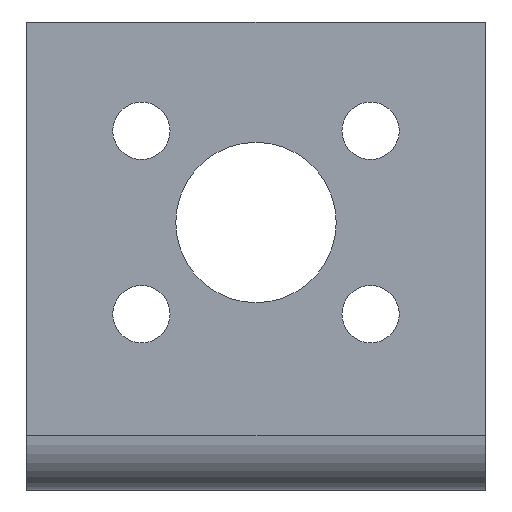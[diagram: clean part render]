
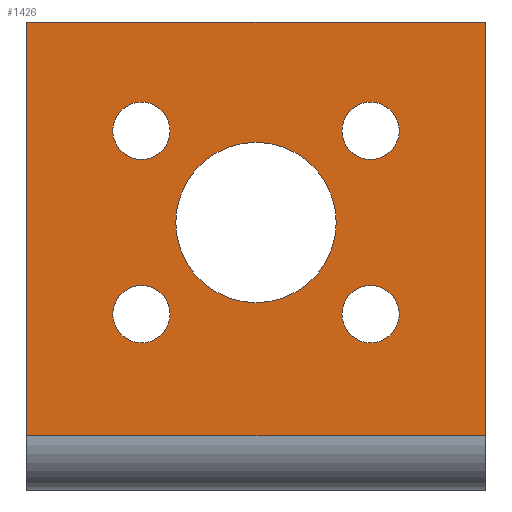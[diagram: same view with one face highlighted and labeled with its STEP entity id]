
A CAD part, front view. The second image highlights one B-rep face of the part: STEP entity #1426.
In plain terms, the highlighted planar face has unit normal (0, -1, 0).
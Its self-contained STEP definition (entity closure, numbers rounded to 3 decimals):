
#19 = ORIENTED_EDGE ( 'NONE', *, *, #1423, .T. ) ;
#25 = VECTOR ( 'NONE', #2276, 1000. ) ;
#33 = DIRECTION ( 'NONE',  ( 0., 1., 0. ) ) ;
#91 = CARTESIAN_POINT ( 'NONE',  ( 20., 33.156, 19.344 ) ) ;
#101 = EDGE_LOOP ( 'NONE', ( #1304, #1640 ) ) ;
#107 = ORIENTED_EDGE ( 'NONE', *, *, #896, .T. ) ;
#153 = DIRECTION ( 'NONE',  ( -1., 0., 0. ) ) ;
#173 = ORIENTED_EDGE ( 'NONE', *, *, #816, .T. ) ;
#190 = EDGE_LOOP ( 'NONE', ( #107, #1419 ) ) ;
#212 = LINE ( 'NONE', #1225, #843 ) ;
#266 = CARTESIAN_POINT ( 'NONE',  ( 20., 33.156, 19.344 ) ) ;
#276 = DIRECTION ( 'NONE',  ( 1., 0., 0. ) ) ;
#364 = CARTESIAN_POINT ( 'NONE',  ( 0., 33.156, 0.737 ) ) ;
#367 = DIRECTION ( 'NONE',  ( 1., 0., 0. ) ) ;
#379 = AXIS2_PLACEMENT_3D ( 'NONE', #91, #1668, #1859 ) ;
#393 = LINE ( 'NONE', #364, #25 ) ;
#403 = VERTEX_POINT ( 'NONE', #2455 ) ;
#426 = FACE_BOUND ( 'NONE', #2022, .T. ) ;
#442 = CIRCLE ( 'NONE', #593, 2.5 ) ;
#443 = EDGE_LOOP ( 'NONE', ( #1646, #2194, #1464, #929 ) ) ;
#479 = DIRECTION ( 'NONE',  ( 0., 1., 0. ) ) ;
#486 = LINE ( 'NONE', #1257, #2010 ) ;
#497 = CARTESIAN_POINT ( 'NONE',  ( 30., 33.156, 11.344 ) ) ;
#522 = CIRCLE ( 'NONE', #1351, 2.5 ) ;
#529 = VERTEX_POINT ( 'NONE', #1342 ) ;
#572 = DIRECTION ( 'NONE',  ( 1., 0., 0. ) ) ;
#593 = AXIS2_PLACEMENT_3D ( 'NONE', #1965, #33, #2145 ) ;
#649 = VERTEX_POINT ( 'NONE', #1209 ) ;
#658 = CARTESIAN_POINT ( 'NONE',  ( 0., 33.156, 36.844 ) ) ;
#723 = CARTESIAN_POINT ( 'NONE',  ( 30., 33.156, 27.344 ) ) ;
#724 = CIRCLE ( 'NONE', #1289, 2.5 ) ;
#732 = PLANE ( 'NONE',  #736 ) ;
#736 = AXIS2_PLACEMENT_3D ( 'NONE', #2459, #1311, #153 ) ;
#781 = DIRECTION ( 'NONE',  ( 1., 0., 0. ) ) ;
#816 = EDGE_CURVE ( 'NONE', #403, #1081, #879, .T. ) ;
#828 = EDGE_CURVE ( 'NONE', #1360, #1531, #2014, .T. ) ;
#843 = VECTOR ( 'NONE', #276, 1000. ) ;
#853 = CARTESIAN_POINT ( 'NONE',  ( 10., 33.156, 11.344 ) ) ;
#870 = VERTEX_POINT ( 'NONE', #2231 ) ;
#878 = AXIS2_PLACEMENT_3D ( 'NONE', #853, #479, #1814 ) ;
#879 = CIRCLE ( 'NONE', #1980, 2.5 ) ;
#890 = VECTOR ( 'NONE', #1442, 1000. ) ;
#896 = EDGE_CURVE ( 'NONE', #1706, #2271, #1758, .T. ) ;
#929 = ORIENTED_EDGE ( 'NONE', *, *, #1155, .F. ) ;
#931 = ORIENTED_EDGE ( 'NONE', *, *, #2341, .T. ) ;
#957 = AXIS2_PLACEMENT_3D ( 'NONE', #2372, #1822, #1620 ) ;
#1000 = CARTESIAN_POINT ( 'NONE',  ( 40., 33.156, 0.737 ) ) ;
#1010 = EDGE_LOOP ( 'NONE', ( #173, #2340 ) ) ;
#1053 = CIRCLE ( 'NONE', #1828, 7. ) ;
#1081 = VERTEX_POINT ( 'NONE', #2351 ) ;
#1112 = DIRECTION ( 'NONE',  ( 1., 0., 0. ) ) ;
#1121 = EDGE_LOOP ( 'NONE', ( #19, #1917 ) ) ;
#1140 = CARTESIAN_POINT ( 'NONE',  ( 10., 33.156, 11.344 ) ) ;
#1155 = EDGE_CURVE ( 'NONE', #870, #2441, #212, .T. ) ;
#1180 = EDGE_CURVE ( 'NONE', #1404, #649, #1951, .T. ) ;
#1184 = CARTESIAN_POINT ( 'NONE',  ( 13., 33.156, 19.344 ) ) ;
#1209 = CARTESIAN_POINT ( 'NONE',  ( 32.5, 33.156, 27.344 ) ) ;
#1219 = EDGE_CURVE ( 'NONE', #2271, #1706, #2253, .T. ) ;
#1225 = CARTESIAN_POINT ( 'NONE',  ( 0., 33.156, 36.844 ) ) ;
#1232 = EDGE_CURVE ( 'NONE', #1652, #1838, #1053, .T. ) ;
#1233 = DIRECTION ( 'NONE',  ( 1., 0., 0. ) ) ;
#1257 = CARTESIAN_POINT ( 'NONE',  ( 40., 33.156, 36.844 ) ) ;
#1289 = AXIS2_PLACEMENT_3D ( 'NONE', #1540, #2487, #781 ) ;
#1302 = AXIS2_PLACEMENT_3D ( 'NONE', #497, #2373, #367 ) ;
#1304 = ORIENTED_EDGE ( 'NONE', *, *, #2002, .T. ) ;
#1311 = DIRECTION ( 'NONE',  ( 0., -1., 0. ) ) ;
#1342 = CARTESIAN_POINT ( 'NONE',  ( 0., 33.156, 0.737 ) ) ;
#1344 = CARTESIAN_POINT ( 'NONE',  ( 7.5, 33.156, 11.344 ) ) ;
#1351 = AXIS2_PLACEMENT_3D ( 'NONE', #723, #2069, #1112 ) ;
#1360 = VERTEX_POINT ( 'NONE', #2083 ) ;
#1374 = EDGE_CURVE ( 'NONE', #529, #1696, #393, .T. ) ;
#1391 = CIRCLE ( 'NONE', #379, 7. ) ;
#1404 = VERTEX_POINT ( 'NONE', #1528 ) ;
#1419 = ORIENTED_EDGE ( 'NONE', *, *, #1219, .T. ) ;
#1423 = EDGE_CURVE ( 'NONE', #649, #1404, #522, .T. ) ;
#1426 = ADVANCED_FACE ( 'NONE', ( #2311, #426, #2408, #2468, #1895, #2439 ), #732, .T. ) ;
#1431 = CARTESIAN_POINT ( 'NONE',  ( 10., 33.156, 27.344 ) ) ;
#1439 = DIRECTION ( 'NONE',  ( 0., 1., 0. ) ) ;
#1442 = DIRECTION ( 'NONE',  ( 0., 0., 1. ) ) ;
#1464 = ORIENTED_EDGE ( 'NONE', *, *, #1966, .F. ) ;
#1528 = CARTESIAN_POINT ( 'NONE',  ( 27.5, 33.156, 27.344 ) ) ;
#1531 = VERTEX_POINT ( 'NONE', #2292 ) ;
#1540 = CARTESIAN_POINT ( 'NONE',  ( 10., 33.156, 27.344 ) ) ;
#1620 = DIRECTION ( 'NONE',  ( 1., 0., 0. ) ) ;
#1640 = ORIENTED_EDGE ( 'NONE', *, *, #1232, .T. ) ;
#1646 = ORIENTED_EDGE ( 'NONE', *, *, #2472, .F. ) ;
#1648 = DIRECTION ( 'NONE',  ( 0., 0., -1. ) ) ;
#1652 = VERTEX_POINT ( 'NONE', #1184 ) ;
#1657 = DIRECTION ( 'NONE',  ( 0., 1., 0. ) ) ;
#1668 = DIRECTION ( 'NONE',  ( 0., 1., 0. ) ) ;
#1696 = VERTEX_POINT ( 'NONE', #1000 ) ;
#1701 = AXIS2_PLACEMENT_3D ( 'NONE', #1140, #1657, #572 ) ;
#1706 = VERTEX_POINT ( 'NONE', #1953 ) ;
#1758 = CIRCLE ( 'NONE', #1701, 2.5 ) ;
#1814 = DIRECTION ( 'NONE',  ( 1., 0., 0. ) ) ;
#1816 = CARTESIAN_POINT ( 'NONE',  ( 40., 33.156, 36.844 ) ) ;
#1822 = DIRECTION ( 'NONE',  ( 0., 1., 0. ) ) ;
#1823 = DIRECTION ( 'NONE',  ( 1., 0., 0. ) ) ;
#1828 = AXIS2_PLACEMENT_3D ( 'NONE', #266, #2183, #1233 ) ;
#1838 = VERTEX_POINT ( 'NONE', #2199 ) ;
#1859 = DIRECTION ( 'NONE',  ( 1., 0., 0. ) ) ;
#1895 = FACE_BOUND ( 'NONE', #1010, .T. ) ;
#1917 = ORIENTED_EDGE ( 'NONE', *, *, #1180, .T. ) ;
#1951 = CIRCLE ( 'NONE', #957, 2.5 ) ;
#1953 = CARTESIAN_POINT ( 'NONE',  ( 12.5, 33.156, 11.344 ) ) ;
#1965 = CARTESIAN_POINT ( 'NONE',  ( 30., 33.156, 11.344 ) ) ;
#1966 = EDGE_CURVE ( 'NONE', #2441, #1696, #486, .T. ) ;
#1980 = AXIS2_PLACEMENT_3D ( 'NONE', #1431, #1439, #1823 ) ;
#2002 = EDGE_CURVE ( 'NONE', #1838, #1652, #1391, .T. ) ;
#2010 = VECTOR ( 'NONE', #1648, 1000. ) ;
#2014 = CIRCLE ( 'NONE', #1302, 2.5 ) ;
#2022 = EDGE_LOOP ( 'NONE', ( #931, #2320 ) ) ;
#2069 = DIRECTION ( 'NONE',  ( 0., 1., 0. ) ) ;
#2083 = CARTESIAN_POINT ( 'NONE',  ( 27.5, 33.156, 11.344 ) ) ;
#2131 = EDGE_CURVE ( 'NONE', #1081, #403, #724, .T. ) ;
#2145 = DIRECTION ( 'NONE',  ( 1., 0., 0. ) ) ;
#2183 = DIRECTION ( 'NONE',  ( 0., 1., 0. ) ) ;
#2194 = ORIENTED_EDGE ( 'NONE', *, *, #1374, .T. ) ;
#2199 = CARTESIAN_POINT ( 'NONE',  ( 27., 33.156, 19.344 ) ) ;
#2231 = CARTESIAN_POINT ( 'NONE',  ( 0., 33.156, 36.844 ) ) ;
#2253 = CIRCLE ( 'NONE', #878, 2.5 ) ;
#2271 = VERTEX_POINT ( 'NONE', #1344 ) ;
#2276 = DIRECTION ( 'NONE',  ( 1., 0., 0. ) ) ;
#2292 = CARTESIAN_POINT ( 'NONE',  ( 32.5, 33.156, 11.344 ) ) ;
#2311 = FACE_BOUND ( 'NONE', #190, .T. ) ;
#2320 = ORIENTED_EDGE ( 'NONE', *, *, #828, .T. ) ;
#2340 = ORIENTED_EDGE ( 'NONE', *, *, #2131, .T. ) ;
#2341 = EDGE_CURVE ( 'NONE', #1531, #1360, #442, .T. ) ;
#2351 = CARTESIAN_POINT ( 'NONE',  ( 7.5, 33.156, 27.344 ) ) ;
#2355 = LINE ( 'NONE', #658, #890 ) ;
#2372 = CARTESIAN_POINT ( 'NONE',  ( 30., 33.156, 27.344 ) ) ;
#2373 = DIRECTION ( 'NONE',  ( 0., 1., 0. ) ) ;
#2408 = FACE_BOUND ( 'NONE', #1121, .T. ) ;
#2439 = FACE_OUTER_BOUND ( 'NONE', #443, .T. ) ;
#2441 = VERTEX_POINT ( 'NONE', #1816 ) ;
#2455 = CARTESIAN_POINT ( 'NONE',  ( 12.5, 33.156, 27.344 ) ) ;
#2459 = CARTESIAN_POINT ( 'NONE',  ( 0., 33.156, 36.844 ) ) ;
#2468 = FACE_BOUND ( 'NONE', #101, .T. ) ;
#2472 = EDGE_CURVE ( 'NONE', #529, #870, #2355, .T. ) ;
#2487 = DIRECTION ( 'NONE',  ( 0., 1., 0. ) ) ;
